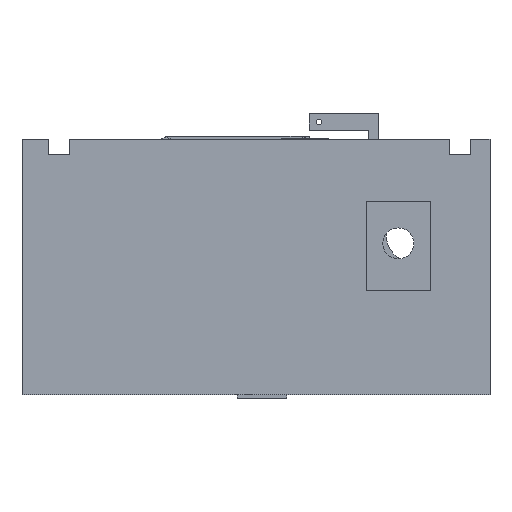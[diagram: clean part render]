
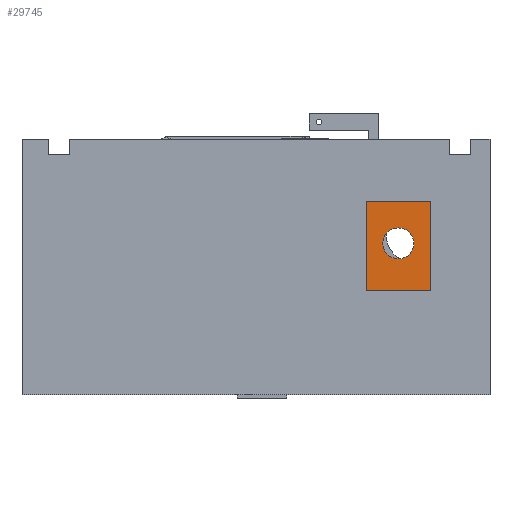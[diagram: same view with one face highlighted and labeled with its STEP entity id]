
A CAD part, front view. The second image highlights one B-rep face of the part: STEP entity #29745.
In plain terms, the highlighted planar face has unit normal (0, -1, 0).
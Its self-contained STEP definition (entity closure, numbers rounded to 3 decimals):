
#2554 = PLANE('',#2555);
#2555 = AXIS2_PLACEMENT_3D('',#2556,#2557,#2558);
#2556 = CARTESIAN_POINT('',(159.,-103.,82.));
#2557 = DIRECTION('',(1.,0.,0.));
#2558 = DIRECTION('',(0.,0.,1.));
#2608 = PLANE('',#2609);
#2609 = AXIS2_PLACEMENT_3D('',#2610,#2611,#2612);
#2610 = CARTESIAN_POINT('',(185.,-103.,82.));
#2611 = DIRECTION('',(1.,0.,0.));
#2612 = DIRECTION('',(0.,0.,1.));
#3016 = PLANE('',#3017);
#3017 = AXIS2_PLACEMENT_3D('',#3018,#3019,#3020);
#3018 = CARTESIAN_POINT('',(172.,-99.664,118.));
#3019 = DIRECTION('',(0.,0.,1.));
#3020 = DIRECTION('',(1.,0.,0.));
#3070 = PLANE('',#3071);
#3071 = AXIS2_PLACEMENT_3D('',#3072,#3073,#3074);
#3072 = CARTESIAN_POINT('',(172.,-99.664,82.));
#3073 = DIRECTION('',(-0.,-0.,-1.));
#3074 = DIRECTION('',(-1.,0.,0.));
#11812 = VERTEX_POINT('',#11813);
#11813 = CARTESIAN_POINT('',(159.,-100.5,82.));
#11834 = EDGE_CURVE('',#11835,#11812,#11837,.T.);
#11835 = VERTEX_POINT('',#11836);
#11836 = CARTESIAN_POINT('',(159.,-100.5,118.));
#11837 = SURFACE_CURVE('',#11838,(#11842,#11848),.PCURVE_S1.);
#11838 = LINE('',#11839,#11840);
#11839 = CARTESIAN_POINT('',(159.,-100.5,82.));
#11840 = VECTOR('',#11841,1.);
#11841 = DIRECTION('',(0.,0.,-1.));
#11842 = PCURVE('',#2554,#11843);
#11843 = DEFINITIONAL_REPRESENTATION('',(#11844),#11847);
#11844 = B_SPLINE_CURVE_WITH_KNOTS('',1,(#11845,#11846),.UNSPECIFIED.,
  .F.,.F.,(2,2),(-36.,-0.),.PIECEWISE_BEZIER_KNOTS.);
#11845 = CARTESIAN_POINT('',(36.,-2.5));
#11846 = CARTESIAN_POINT('',(0.,-2.5));
#11847 = ( GEOMETRIC_REPRESENTATION_CONTEXT(2) 
PARAMETRIC_REPRESENTATION_CONTEXT() REPRESENTATION_CONTEXT('2D SPACE',''
  ) );
#11848 = PCURVE('',#11849,#11854);
#11849 = PLANE('',#11850);
#11850 = AXIS2_PLACEMENT_3D('',#11851,#11852,#11853);
#11851 = CARTESIAN_POINT('',(155.,-100.5,82.));
#11852 = DIRECTION('',(0.,1.,0.));
#11853 = DIRECTION('',(0.,0.,1.));
#11854 = DEFINITIONAL_REPRESENTATION('',(#11855),#11858);
#11855 = B_SPLINE_CURVE_WITH_KNOTS('',1,(#11856,#11857),.UNSPECIFIED.,
  .F.,.F.,(2,2),(-36.,-0.),.PIECEWISE_BEZIER_KNOTS.);
#11856 = CARTESIAN_POINT('',(36.,4.));
#11857 = CARTESIAN_POINT('',(0.,4.));
#11858 = ( GEOMETRIC_REPRESENTATION_CONTEXT(2) 
PARAMETRIC_REPRESENTATION_CONTEXT() REPRESENTATION_CONTEXT('2D SPACE',''
  ) );
#11942 = VERTEX_POINT('',#11943);
#11943 = CARTESIAN_POINT('',(185.,-100.5,82.));
#11964 = EDGE_CURVE('',#11965,#11942,#11967,.T.);
#11965 = VERTEX_POINT('',#11966);
#11966 = CARTESIAN_POINT('',(185.,-100.5,118.));
#11967 = SURFACE_CURVE('',#11968,(#11972,#11978),.PCURVE_S1.);
#11968 = LINE('',#11969,#11970);
#11969 = CARTESIAN_POINT('',(185.,-100.5,82.));
#11970 = VECTOR('',#11971,1.);
#11971 = DIRECTION('',(0.,0.,-1.));
#11972 = PCURVE('',#2608,#11973);
#11973 = DEFINITIONAL_REPRESENTATION('',(#11974),#11977);
#11974 = B_SPLINE_CURVE_WITH_KNOTS('',1,(#11975,#11976),.UNSPECIFIED.,
  .F.,.F.,(2,2),(-36.,-0.),.PIECEWISE_BEZIER_KNOTS.);
#11975 = CARTESIAN_POINT('',(36.,-2.5));
#11976 = CARTESIAN_POINT('',(0.,-2.5));
#11977 = ( GEOMETRIC_REPRESENTATION_CONTEXT(2) 
PARAMETRIC_REPRESENTATION_CONTEXT() REPRESENTATION_CONTEXT('2D SPACE',''
  ) );
#11978 = PCURVE('',#11849,#11979);
#11979 = DEFINITIONAL_REPRESENTATION('',(#11980),#11983);
#11980 = B_SPLINE_CURVE_WITH_KNOTS('',1,(#11981,#11982),.UNSPECIFIED.,
  .F.,.F.,(2,2),(-36.,-0.),.PIECEWISE_BEZIER_KNOTS.);
#11981 = CARTESIAN_POINT('',(36.,30.));
#11982 = CARTESIAN_POINT('',(0.,30.));
#11983 = ( GEOMETRIC_REPRESENTATION_CONTEXT(2) 
PARAMETRIC_REPRESENTATION_CONTEXT() REPRESENTATION_CONTEXT('2D SPACE',''
  ) );
#12612 = EDGE_CURVE('',#11835,#11965,#12613,.T.);
#12613 = SURFACE_CURVE('',#12614,(#12618,#12625),.PCURVE_S1.);
#12614 = LINE('',#12615,#12616);
#12615 = CARTESIAN_POINT('',(155.,-100.5,118.));
#12616 = VECTOR('',#12617,1.);
#12617 = DIRECTION('',(1.,0.,0.));
#12618 = PCURVE('',#3016,#12619);
#12619 = DEFINITIONAL_REPRESENTATION('',(#12620),#12624);
#12620 = LINE('',#12621,#12622);
#12621 = CARTESIAN_POINT('',(-17.,-0.836));
#12622 = VECTOR('',#12623,1.);
#12623 = DIRECTION('',(1.,0.));
#12624 = ( GEOMETRIC_REPRESENTATION_CONTEXT(2) 
PARAMETRIC_REPRESENTATION_CONTEXT() REPRESENTATION_CONTEXT('2D SPACE',''
  ) );
#12625 = PCURVE('',#11849,#12626);
#12626 = DEFINITIONAL_REPRESENTATION('',(#12627),#12631);
#12627 = LINE('',#12628,#12629);
#12628 = CARTESIAN_POINT('',(36.,0.));
#12629 = VECTOR('',#12630,1.);
#12630 = DIRECTION('',(0.,1.));
#12631 = ( GEOMETRIC_REPRESENTATION_CONTEXT(2) 
PARAMETRIC_REPRESENTATION_CONTEXT() REPRESENTATION_CONTEXT('2D SPACE',''
  ) );
#12806 = EDGE_CURVE('',#11812,#11942,#12807,.T.);
#12807 = SURFACE_CURVE('',#12808,(#12812,#12819),.PCURVE_S1.);
#12808 = LINE('',#12809,#12810);
#12809 = CARTESIAN_POINT('',(155.,-100.5,82.));
#12810 = VECTOR('',#12811,1.);
#12811 = DIRECTION('',(1.,0.,0.));
#12812 = PCURVE('',#3070,#12813);
#12813 = DEFINITIONAL_REPRESENTATION('',(#12814),#12818);
#12814 = LINE('',#12815,#12816);
#12815 = CARTESIAN_POINT('',(17.,-0.836));
#12816 = VECTOR('',#12817,1.);
#12817 = DIRECTION('',(-1.,0.));
#12818 = ( GEOMETRIC_REPRESENTATION_CONTEXT(2) 
PARAMETRIC_REPRESENTATION_CONTEXT() REPRESENTATION_CONTEXT('2D SPACE',''
  ) );
#12819 = PCURVE('',#11849,#12820);
#12820 = DEFINITIONAL_REPRESENTATION('',(#12821),#12825);
#12821 = LINE('',#12822,#12823);
#12822 = CARTESIAN_POINT('',(0.,0.));
#12823 = VECTOR('',#12824,1.);
#12824 = DIRECTION('',(0.,1.));
#12825 = ( GEOMETRIC_REPRESENTATION_CONTEXT(2) 
PARAMETRIC_REPRESENTATION_CONTEXT() REPRESENTATION_CONTEXT('2D SPACE',''
  ) );
#29745 = ADVANCED_FACE('',(#29746,#29752),#11849,.F.);
#29746 = FACE_BOUND('',#29747,.F.);
#29747 = EDGE_LOOP('',(#29748,#29749,#29750,#29751));
#29748 = ORIENTED_EDGE('',*,*,#12806,.F.);
#29749 = ORIENTED_EDGE('',*,*,#11834,.F.);
#29750 = ORIENTED_EDGE('',*,*,#12612,.T.);
#29751 = ORIENTED_EDGE('',*,*,#11964,.T.);
#29752 = FACE_BOUND('',#29753,.F.);
#29753 = EDGE_LOOP('',(#29754));
#29754 = ORIENTED_EDGE('',*,*,#29755,.F.);
#29755 = EDGE_CURVE('',#29756,#29756,#29758,.T.);
#29756 = VERTEX_POINT('',#29757);
#29757 = CARTESIAN_POINT('',(172.,-100.5,107.25));
#29758 = SURFACE_CURVE('',#29759,(#29764,#29771),.PCURVE_S1.);
#29759 = CIRCLE('',#29760,6.25);
#29760 = AXIS2_PLACEMENT_3D('',#29761,#29762,#29763);
#29761 = CARTESIAN_POINT('',(172.,-100.5,101.));
#29762 = DIRECTION('',(0.,1.,0.));
#29763 = DIRECTION('',(0.,0.,1.));
#29764 = PCURVE('',#11849,#29765);
#29765 = DEFINITIONAL_REPRESENTATION('',(#29766),#29770);
#29766 = CIRCLE('',#29767,6.25);
#29767 = AXIS2_PLACEMENT_2D('',#29768,#29769);
#29768 = CARTESIAN_POINT('',(19.,17.));
#29769 = DIRECTION('',(1.,0.));
#29770 = ( GEOMETRIC_REPRESENTATION_CONTEXT(2) 
PARAMETRIC_REPRESENTATION_CONTEXT() REPRESENTATION_CONTEXT('2D SPACE',''
  ) );
#29771 = PCURVE('',#29772,#29777);
#29772 = CYLINDRICAL_SURFACE('',#29773,6.25);
#29773 = AXIS2_PLACEMENT_3D('',#29774,#29775,#29776);
#29774 = CARTESIAN_POINT('',(172.,-101.,101.));
#29775 = DIRECTION('',(0.,1.,0.));
#29776 = DIRECTION('',(0.,0.,1.));
#29777 = DEFINITIONAL_REPRESENTATION('',(#29778),#29782);
#29778 = LINE('',#29779,#29780);
#29779 = CARTESIAN_POINT('',(0.,0.5));
#29780 = VECTOR('',#29781,1.);
#29781 = DIRECTION('',(1.,0.));
#29782 = ( GEOMETRIC_REPRESENTATION_CONTEXT(2) 
PARAMETRIC_REPRESENTATION_CONTEXT() REPRESENTATION_CONTEXT('2D SPACE',''
  ) );
